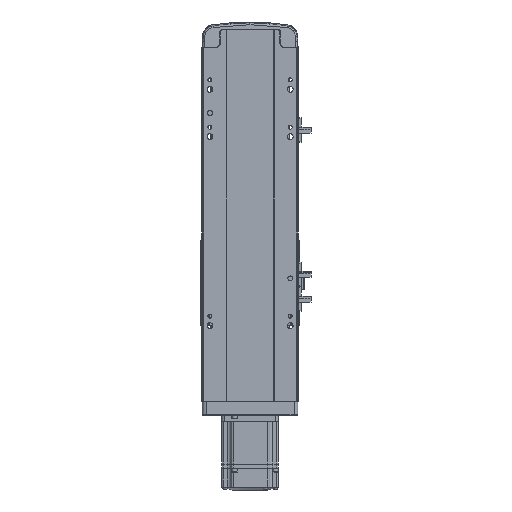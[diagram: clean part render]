
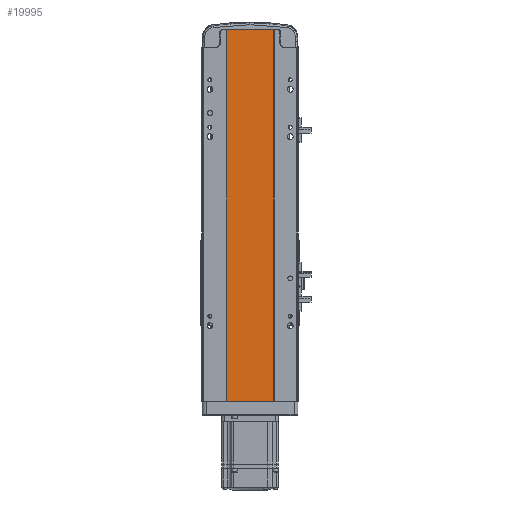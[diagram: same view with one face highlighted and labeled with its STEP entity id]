
A CAD part, front view. The second image highlights one B-rep face of the part: STEP entity #19995.
In plain terms, the highlighted planar face has unit normal (0, -1, 0).
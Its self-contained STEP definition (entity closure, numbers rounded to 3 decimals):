
#7712 = LINE ( 'NONE', #22103, #54906 ) ;
#7741 = VERTEX_POINT ( 'NONE', #10947 ) ;
#8465 = DIRECTION ( 'NONE',  ( 0., 1., 0. ) ) ;
#10649 = VERTEX_POINT ( 'NONE', #49316 ) ;
#10947 = CARTESIAN_POINT ( 'NONE',  ( -24.5, 2., 393. ) ) ;
#13871 = LINE ( 'NONE', #22121, #46819 ) ;
#15998 = LINE ( 'NONE', #36860, #29620 ) ;
#17641 = PLANE ( 'NONE',  #33144 ) ;
#19995 = ADVANCED_FACE ( 'NONE', ( #22930 ), #17641, .F. ) ;
#22103 = CARTESIAN_POINT ( 'NONE',  ( -24.5, 2., 393. ) ) ;
#22121 = CARTESIAN_POINT ( 'NONE',  ( 24.5, 2., 393. ) ) ;
#22258 = DIRECTION ( 'NONE',  ( 0., 0., 1. ) ) ;
#22930 = FACE_OUTER_BOUND ( 'NONE', #48666, .T. ) ;
#24584 = DIRECTION ( 'NONE',  ( 1., 0., 0. ) ) ;
#27933 = EDGE_CURVE ( 'NONE', #31813, #10649, #43362, .T. ) ;
#29221 = ORIENTED_EDGE ( 'NONE', *, *, #27933, .T. ) ;
#29620 = VECTOR ( 'NONE', #59108, 1000. ) ;
#29680 = EDGE_CURVE ( 'NONE', #7741, #31813, #15998, .T. ) ;
#31813 = VERTEX_POINT ( 'NONE', #51040 ) ;
#33144 = AXIS2_PLACEMENT_3D ( 'NONE', #44230, #8465, #22258 ) ;
#36860 = CARTESIAN_POINT ( 'NONE',  ( -24.5, 2., 393. ) ) ;
#38648 = VERTEX_POINT ( 'NONE', #54176 ) ;
#39194 = EDGE_CURVE ( 'NONE', #38648, #10649, #13871, .T. ) ;
#41422 = EDGE_CURVE ( 'NONE', #7741, #38648, #7712, .T. ) ;
#43362 = LINE ( 'NONE', #47194, #52696 ) ;
#44230 = CARTESIAN_POINT ( 'NONE',  ( 0., 2., 393. ) ) ;
#45052 = DIRECTION ( 'NONE',  ( 1., 0., 0. ) ) ;
#46819 = VECTOR ( 'NONE', #54103, 1000. ) ;
#47194 = CARTESIAN_POINT ( 'NONE',  ( 0., 2., 0. ) ) ;
#48070 = ORIENTED_EDGE ( 'NONE', *, *, #29680, .T. ) ;
#48666 = EDGE_LOOP ( 'NONE', ( #29221, #58352, #55269, #48070 ) ) ;
#49316 = CARTESIAN_POINT ( 'NONE',  ( 24.5, 2., 0. ) ) ;
#51040 = CARTESIAN_POINT ( 'NONE',  ( -24.5, 2., 0. ) ) ;
#52696 = VECTOR ( 'NONE', #24584, 1000. ) ;
#54103 = DIRECTION ( 'NONE',  ( 0., 0., -1. ) ) ;
#54176 = CARTESIAN_POINT ( 'NONE',  ( 24.5, 2., 393. ) ) ;
#54906 = VECTOR ( 'NONE', #45052, 1000. ) ;
#55269 = ORIENTED_EDGE ( 'NONE', *, *, #41422, .F. ) ;
#58352 = ORIENTED_EDGE ( 'NONE', *, *, #39194, .F. ) ;
#59108 = DIRECTION ( 'NONE',  ( 0., 0., -1. ) ) ;
